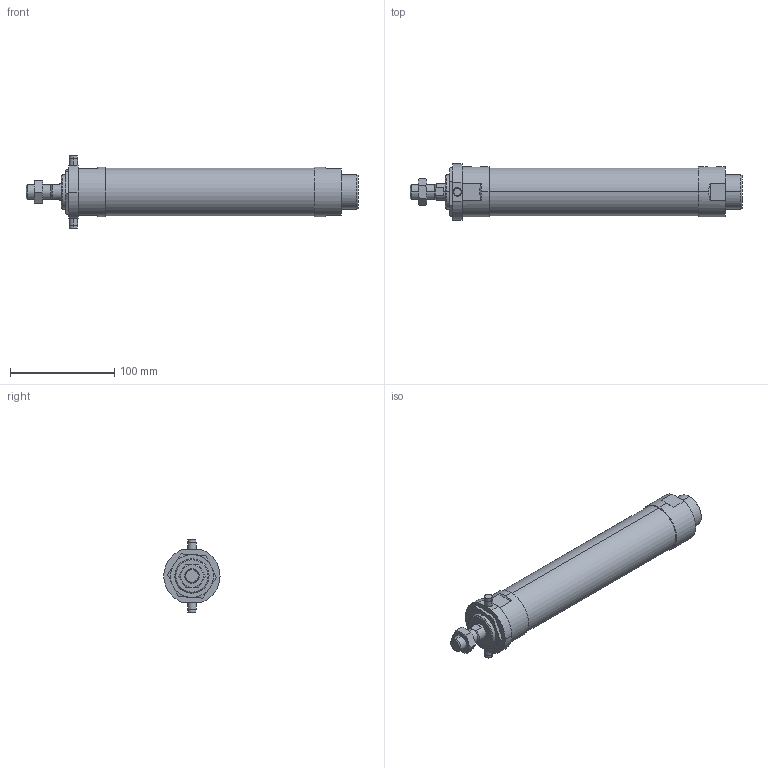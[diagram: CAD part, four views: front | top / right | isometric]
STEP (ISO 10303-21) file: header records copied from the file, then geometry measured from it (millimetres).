
FILE_DESCRIPTION (( 'STEP AP203' ), '1' );
FILE_NAME ('J#2-40-150-T.STEP', '2016-03-08T08:03:20', ( '' ), ( '' ), 'SwSTEP 2.0', 'SolidWorks 2014', '' );
FILE_SCHEMA (( 'CONFIG_CONTROL_DESIGN' ));
Length unit declared in the file: millimetre
Products named in the file (5): J#2-40-150; J#2-40-150-T; J#2-40-T
Assembly tree (4 placements, depth 2):
  J#2-40-150-T
    J#2-40-150
    (unnamed)
    (unnamed)
    J#2-40-T
Bounding box: 319 x 53.91 x 70 mm (x, y, z)
Volume: 475053.1 mm3; surface area: 55948.4 mm2
Topology: 4 solids, 4 shells, 121 faces, 279 edges, 171 vertices
Faces by surface type: plane 39, cylinder 35, torus 24, cone 23
Entity records: 4265 total; most frequent: CARTESIAN_POINT 1053, DIRECTION 576, ORIENTED_EDGE 550, EDGE_CURVE 275, AXIS2_PLACEMENT_3D 236, VERTEX_POINT 171, EDGE_LOOP 136, ADVANCED_FACE 121
